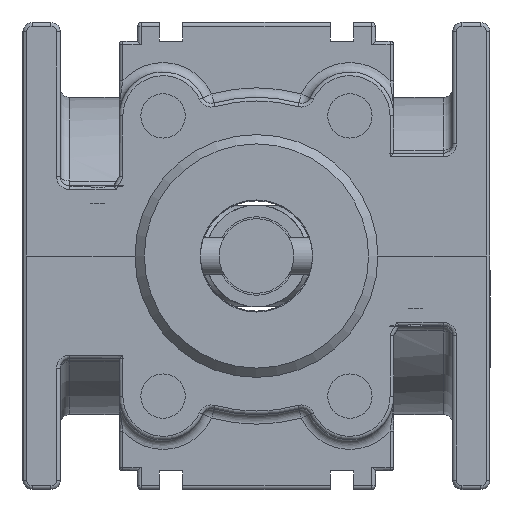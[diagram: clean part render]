
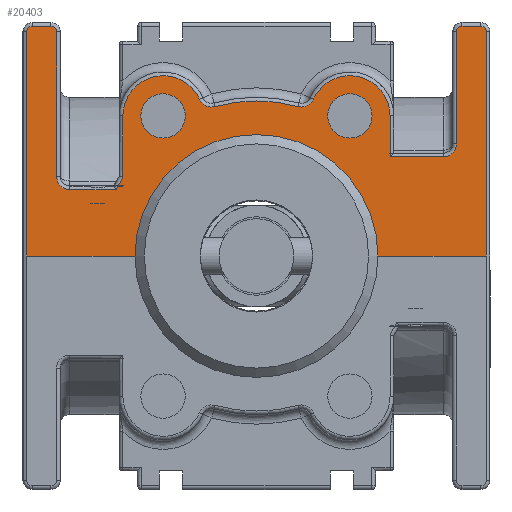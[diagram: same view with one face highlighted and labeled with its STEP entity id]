
A CAD part, left-side view. The second image highlights one B-rep face of the part: STEP entity #20403.
In plain terms, the highlighted planar face has unit normal (-1, 0, 0).
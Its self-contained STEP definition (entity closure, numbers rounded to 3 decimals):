
#1688=LINE('',#32409,#3116);
#1691=LINE('',#32435,#3119);
#1693=LINE('',#32447,#3121);
#1694=LINE('',#32456,#3122);
#1719=LINE('',#32558,#3147);
#1721=LINE('',#32615,#3149);
#1722=LINE('',#32625,#3150);
#1723=LINE('',#32633,#3151);
#1725=LINE('',#32643,#3153);
#1728=LINE('',#32650,#3156);
#1772=LINE('',#32907,#3200);
#1773=LINE('',#32908,#3201);
#3116=VECTOR('',#25384,10.);
#3119=VECTOR('',#25397,10.);
#3121=VECTOR('',#25411,10.);
#3122=VECTOR('',#25422,10.);
#3147=VECTOR('',#25495,10.);
#3149=VECTOR('',#25533,10.);
#3150=VECTOR('',#25548,10.);
#3151=VECTOR('',#25559,10.);
#3153=VECTOR('',#25571,10.);
#3156=VECTOR('',#25578,10.);
#3200=VECTOR('',#25828,10.);
#3201=VECTOR('',#25829,10.);
#4058=FACE_BOUND('',#5732,.T.);
#4059=FACE_BOUND('',#5733,.T.);
#4519=FACE_OUTER_BOUND('',#5731,.T.);
#5731=EDGE_LOOP('',(#14601,#14602,#14603,#14604,#14605,#14606,#14607,#14608,
#14609,#14610,#14611,#14612,#14613,#14614,#14615,#14616,#14617,#14618,#14619,
#14620,#14621,#14622,#14623,#14624,#14625));
#5732=EDGE_LOOP('',(#14626));
#5733=EDGE_LOOP('',(#14627));
#6837=CIRCLE('',#21848,1.4);
#6841=CIRCLE('',#21854,0.6);
#6845=CIRCLE('',#21860,0.6);
#6861=CIRCLE('',#21888,4.3);
#6863=CIRCLE('',#21891,1.4);
#6865=CIRCLE('',#21894,16.6);
#6867=CIRCLE('',#21897,1.4);
#6869=CIRCLE('',#21900,4.3);
#6873=CIRCLE('',#21907,1.4);
#6877=CIRCLE('',#21913,0.6);
#6880=CIRCLE('',#21918,0.6);
#6930=CIRCLE('',#22002,16.6);
#6946=CIRCLE('',#22025,9.);
#6947=CIRCLE('',#22026,2.375);
#6948=CIRCLE('',#22027,2.375);
#8356=VERTEX_POINT('',#32406);
#8357=VERTEX_POINT('',#32408);
#8359=VERTEX_POINT('',#32427);
#8361=VERTEX_POINT('',#32433);
#8363=VERTEX_POINT('',#32439);
#8365=VERTEX_POINT('',#32445);
#8367=VERTEX_POINT('',#32451);
#8368=VERTEX_POINT('',#32455);
#8398=VERTEX_POINT('',#32556);
#8399=VERTEX_POINT('',#32557);
#8401=VERTEX_POINT('',#32591);
#8402=VERTEX_POINT('',#32595);
#8403=VERTEX_POINT('',#32599);
#8404=VERTEX_POINT('',#32603);
#8405=VERTEX_POINT('',#32607);
#8407=VERTEX_POINT('',#32613);
#8408=VERTEX_POINT('',#32614);
#8409=VERTEX_POINT('',#32619);
#8410=VERTEX_POINT('',#32624);
#8411=VERTEX_POINT('',#32628);
#8412=VERTEX_POINT('',#32632);
#8413=VERTEX_POINT('',#32636);
#8415=VERTEX_POINT('',#32642);
#8484=VERTEX_POINT('',#32904);
#8485=VERTEX_POINT('',#32905);
#8486=VERTEX_POINT('',#32909);
#8487=VERTEX_POINT('',#32911);
#10527=EDGE_CURVE('',#8357,#8356,#1688,.T.);
#10531=EDGE_CURVE('',#8359,#8356,#6837,.T.);
#10534=EDGE_CURVE('',#8361,#8359,#1691,.T.);
#10537=EDGE_CURVE('',#8363,#8361,#6841,.T.);
#10540=EDGE_CURVE('',#8365,#8363,#1693,.T.);
#10543=EDGE_CURVE('',#8367,#8365,#6845,.T.);
#10544=EDGE_CURVE('',#8368,#8367,#1694,.T.);
#10584=EDGE_CURVE('',#8398,#8399,#1719,.T.);
#10588=EDGE_CURVE('',#8398,#8401,#6861,.T.);
#10590=EDGE_CURVE('',#8401,#8402,#6863,.T.);
#10592=EDGE_CURVE('',#8402,#8403,#6865,.T.);
#10594=EDGE_CURVE('',#8403,#8404,#6867,.T.);
#10596=EDGE_CURVE('',#8404,#8405,#6869,.T.);
#10599=EDGE_CURVE('',#8407,#8408,#1721,.T.);
#10602=EDGE_CURVE('',#8408,#8409,#6873,.T.);
#10605=EDGE_CURVE('',#8409,#8410,#1722,.T.);
#10607=EDGE_CURVE('',#8410,#8411,#6877,.T.);
#10609=EDGE_CURVE('',#8411,#8412,#1723,.T.);
#10611=EDGE_CURVE('',#8412,#8413,#6880,.T.);
#10614=EDGE_CURVE('',#8413,#8415,#1725,.T.);
#10618=EDGE_CURVE('',#8405,#8407,#1728,.T.);
#10705=EDGE_CURVE('',#8357,#8399,#6930,.T.);
#10728=EDGE_CURVE('',#8484,#8485,#6946,.T.);
#10729=EDGE_CURVE('',#8485,#8415,#1772,.T.);
#10730=EDGE_CURVE('',#8368,#8484,#1773,.T.);
#10731=EDGE_CURVE('',#8486,#8486,#6947,.T.);
#10732=EDGE_CURVE('',#8487,#8487,#6948,.T.);
#14601=ORIENTED_EDGE('',*,*,#10728,.T.);
#14602=ORIENTED_EDGE('',*,*,#10729,.T.);
#14603=ORIENTED_EDGE('',*,*,#10614,.F.);
#14604=ORIENTED_EDGE('',*,*,#10611,.F.);
#14605=ORIENTED_EDGE('',*,*,#10609,.F.);
#14606=ORIENTED_EDGE('',*,*,#10607,.F.);
#14607=ORIENTED_EDGE('',*,*,#10605,.F.);
#14608=ORIENTED_EDGE('',*,*,#10602,.F.);
#14609=ORIENTED_EDGE('',*,*,#10599,.F.);
#14610=ORIENTED_EDGE('',*,*,#10618,.F.);
#14611=ORIENTED_EDGE('',*,*,#10596,.F.);
#14612=ORIENTED_EDGE('',*,*,#10594,.F.);
#14613=ORIENTED_EDGE('',*,*,#10592,.F.);
#14614=ORIENTED_EDGE('',*,*,#10590,.F.);
#14615=ORIENTED_EDGE('',*,*,#10588,.F.);
#14616=ORIENTED_EDGE('',*,*,#10584,.T.);
#14617=ORIENTED_EDGE('',*,*,#10705,.F.);
#14618=ORIENTED_EDGE('',*,*,#10527,.T.);
#14619=ORIENTED_EDGE('',*,*,#10531,.F.);
#14620=ORIENTED_EDGE('',*,*,#10534,.F.);
#14621=ORIENTED_EDGE('',*,*,#10537,.F.);
#14622=ORIENTED_EDGE('',*,*,#10540,.F.);
#14623=ORIENTED_EDGE('',*,*,#10543,.F.);
#14624=ORIENTED_EDGE('',*,*,#10544,.F.);
#14625=ORIENTED_EDGE('',*,*,#10730,.T.);
#14626=ORIENTED_EDGE('',*,*,#10731,.T.);
#14627=ORIENTED_EDGE('',*,*,#10732,.T.);
#18840=PLANE('',#22024);
#20403=ADVANCED_FACE('',(#4519,#4058,#4059),#18840,.T.);
#21848=AXIS2_PLACEMENT_3D('',#32429,#25390,#25391);
#21854=AXIS2_PLACEMENT_3D('',#32441,#25404,#25405);
#21860=AXIS2_PLACEMENT_3D('',#32453,#25418,#25419);
#21888=AXIS2_PLACEMENT_3D('',#32592,#25501,#25502);
#21891=AXIS2_PLACEMENT_3D('',#32596,#25507,#25508);
#21894=AXIS2_PLACEMENT_3D('',#32600,#25513,#25514);
#21897=AXIS2_PLACEMENT_3D('',#32604,#25519,#25520);
#21900=AXIS2_PLACEMENT_3D('',#32608,#25525,#25526);
#21907=AXIS2_PLACEMENT_3D('',#32620,#25540,#25541);
#21913=AXIS2_PLACEMENT_3D('',#32629,#25553,#25554);
#21918=AXIS2_PLACEMENT_3D('',#32637,#25564,#25565);
#22002=AXIS2_PLACEMENT_3D('',#32861,#25773,#25774);
#22024=AXIS2_PLACEMENT_3D('',#32903,#25824,#25825);
#22025=AXIS2_PLACEMENT_3D('',#32906,#25826,#25827);
#22026=AXIS2_PLACEMENT_3D('',#32910,#25830,#25831);
#22027=AXIS2_PLACEMENT_3D('',#32912,#25832,#25833);
#25384=DIRECTION('',(0.,1.,0.));
#25390=DIRECTION('center_axis',(-1.,0.,0.));
#25391=DIRECTION('ref_axis',(0.,0.707,-0.707));
#25397=DIRECTION('',(0.,0.,-1.));
#25404=DIRECTION('center_axis',(1.,0.,0.));
#25405=DIRECTION('ref_axis',(0.,-0.707,0.707));
#25411=DIRECTION('',(0.,-1.,0.));
#25418=DIRECTION('center_axis',(1.,0.,0.));
#25419=DIRECTION('ref_axis',(0.,0.707,0.707));
#25422=DIRECTION('',(0.,0.,1.));
#25495=DIRECTION('',(0.,0.,-1.));
#25501=DIRECTION('center_axis',(1.,0.,0.));
#25502=DIRECTION('ref_axis',(0.,0.211,0.978));
#25507=DIRECTION('center_axis',(-1.,0.,0.));
#25508=DIRECTION('ref_axis',(0.,0.424,-0.906));
#25513=DIRECTION('center_axis',(1.,0.,0.));
#25514=DIRECTION('ref_axis',(0.,0.,1.));
#25519=DIRECTION('center_axis',(-1.,0.,0.));
#25520=DIRECTION('ref_axis',(0.,-0.424,-0.906));
#25525=DIRECTION('center_axis',(1.,0.,0.));
#25526=DIRECTION('ref_axis',(0.,-0.211,0.978));
#25533=DIRECTION('',(0.,-1.,0.));
#25540=DIRECTION('center_axis',(-1.,0.,0.));
#25541=DIRECTION('ref_axis',(0.,-0.707,-0.707));
#25548=DIRECTION('',(0.,0.,1.));
#25553=DIRECTION('center_axis',(1.,0.,0.));
#25554=DIRECTION('ref_axis',(0.,0.707,0.707));
#25559=DIRECTION('',(0.,-1.,0.));
#25564=DIRECTION('center_axis',(1.,0.,0.));
#25565=DIRECTION('ref_axis',(0.,-0.707,0.707));
#25571=DIRECTION('',(0.,0.,-1.));
#25578=DIRECTION('',(0.,0.,-1.));
#25773=DIRECTION('center_axis',(1.,0.,0.));
#25774=DIRECTION('ref_axis',(0.,0.877,0.48));
#25824=DIRECTION('center_axis',(-1.,0.,0.));
#25825=DIRECTION('ref_axis',(0.,0.,1.));
#25826=DIRECTION('center_axis',(1.,0.,0.));
#25827=DIRECTION('ref_axis',(0.,-1.,0.));
#25828=DIRECTION('',(0.,-1.,0.));
#25829=DIRECTION('',(0.,-1.,0.));
#25830=DIRECTION('center_axis',(1.,0.,0.));
#25831=DIRECTION('ref_axis',(0.,-1.,0.));
#25832=DIRECTION('center_axis',(1.,0.,0.));
#25833=DIRECTION('ref_axis',(0.,-1.,0.));
#32406=CARTESIAN_POINT('',(0.,45.,7.1));
#32408=CARTESIAN_POINT('',(0.,40.005,7.1));
#32409=CARTESIAN_POINT('',(0.,12.5,7.1));
#32427=CARTESIAN_POINT('',(0.,46.4,8.5));
#32429=CARTESIAN_POINT('Origin',(0.,45.,8.5));
#32433=CARTESIAN_POINT('',(0.,46.4,24.));
#32435=CARTESIAN_POINT('',(0.,46.4,3.75));
#32439=CARTESIAN_POINT('',(0.,47.,24.6));
#32441=CARTESIAN_POINT('Origin',(0.,47.,24.));
#32445=CARTESIAN_POINT('',(0.,49.,24.6));
#32447=CARTESIAN_POINT('',(0.,24.,24.6));
#32451=CARTESIAN_POINT('',(0.,49.6,24.));
#32453=CARTESIAN_POINT('Origin',(0.,49.,24.));
#32455=CARTESIAN_POINT('',(0.,49.6,0.));
#32456=CARTESIAN_POINT('',(0.,49.6,0.));
#32556=CARTESIAN_POINT('',(0.,39.3,15.));
#32557=CARTESIAN_POINT('',(0.,39.3,8.43));
#32558=CARTESIAN_POINT('',(0.,39.3,7.5));
#32591=CARTESIAN_POINT('',(0.,31.081,16.77));
#32592=CARTESIAN_POINT('Origin',(0.,35.,15.));
#32595=CARTESIAN_POINT('',(0.,29.432,15.997));
#32596=CARTESIAN_POINT('Origin',(0.,29.805,17.347));
#32599=CARTESIAN_POINT('',(0.,20.568,15.997));
#32600=CARTESIAN_POINT('Origin',(0.,25.,0.));
#32603=CARTESIAN_POINT('',(0.,18.919,16.77));
#32604=CARTESIAN_POINT('Origin',(0.,20.195,17.347));
#32607=CARTESIAN_POINT('',(0.,10.7,15.));
#32608=CARTESIAN_POINT('Origin',(0.,15.,15.));
#32613=CARTESIAN_POINT('',(0.,10.7,10.6));
#32614=CARTESIAN_POINT('',(0.,5.,10.6));
#32615=CARTESIAN_POINT('',(0.,0.,10.6));
#32619=CARTESIAN_POINT('',(0.,3.6,12.));
#32620=CARTESIAN_POINT('Origin',(0.,5.,12.));
#32624=CARTESIAN_POINT('',(0.,3.6,24.));
#32625=CARTESIAN_POINT('',(0.,3.6,3.75));
#32628=CARTESIAN_POINT('',(0.,3.,24.6));
#32629=CARTESIAN_POINT('Origin',(0.,3.,24.));
#32632=CARTESIAN_POINT('',(0.,1.,24.6));
#32633=CARTESIAN_POINT('',(0.,1.,24.6));
#32636=CARTESIAN_POINT('',(0.,0.4,24.));
#32637=CARTESIAN_POINT('Origin',(0.,1.,24.));
#32642=CARTESIAN_POINT('',(0.,0.4,0.));
#32643=CARTESIAN_POINT('',(0.,0.4,0.));
#32650=CARTESIAN_POINT('',(0.,10.7,7.5));
#32861=CARTESIAN_POINT('Origin',(0.,25.,0.));
#32903=CARTESIAN_POINT('Origin',(0.,0.,0.));
#32904=CARTESIAN_POINT('',(0.,34.,0.));
#32905=CARTESIAN_POINT('',(0.,16.,0.));
#32906=CARTESIAN_POINT('Origin',(0.,25.,0.));
#32907=CARTESIAN_POINT('',(0.,50.,0.));
#32908=CARTESIAN_POINT('',(0.,50.,0.));
#32909=CARTESIAN_POINT('',(0.,37.375,15.));
#32910=CARTESIAN_POINT('Origin',(0.,35.,15.));
#32911=CARTESIAN_POINT('',(0.,17.375,15.));
#32912=CARTESIAN_POINT('Origin',(0.,15.,15.));
